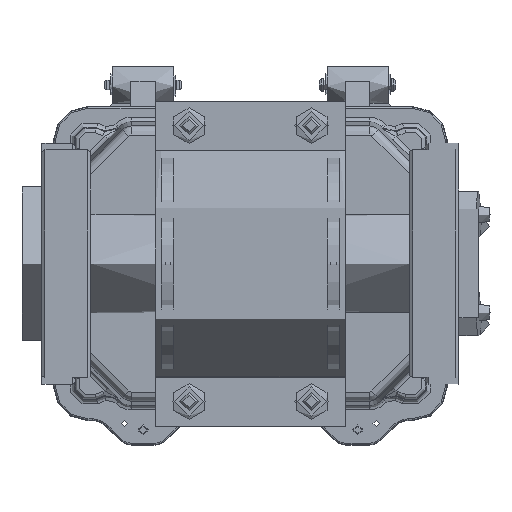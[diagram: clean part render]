
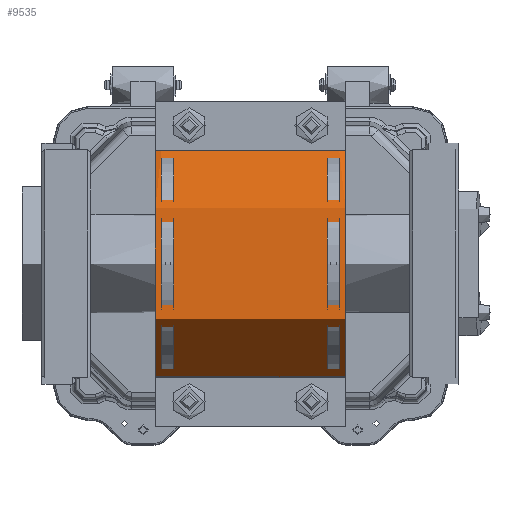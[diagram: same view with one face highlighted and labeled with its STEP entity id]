
A CAD part, front view. The second image highlights one B-rep face of the part: STEP entity #9535.
In plain terms, the highlighted cylindrical face has radius 37 mm (diameter 74 mm), a partial arc.
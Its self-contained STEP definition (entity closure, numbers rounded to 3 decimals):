
#9535=ADVANCED_FACE('',(#25986),#25988,.T.);
#25986=FACE_BOUND('',#25987,.T.);
#25987=EDGE_LOOP('',(#34668,#34669,#34670,#34671,#34672,#34673,#34674,#34675,#34676,
#34677));
#25988=CYLINDRICAL_SURFACE('',#25989,37.);
#25989=AXIS2_PLACEMENT_3D('',#25990,#25991,#25992);
#25990=CARTESIAN_POINT('',(-31.,-9.553,0.));
#25991=DIRECTION('',(1.,0.,0.));
#25992=DIRECTION('',(0.,0.,1.));
#34668=ORIENTED_EDGE('',*,*,#38542,.F.);
#34669=ORIENTED_EDGE('',*,*,#38524,.T.);
#34670=ORIENTED_EDGE('',*,*,#38561,.F.);
#34671=ORIENTED_EDGE('',*,*,#38546,.T.);
#34672=ORIENTED_EDGE('',*,*,#38469,.F.);
#34673=ORIENTED_EDGE('',*,*,#38562,.F.);
#34674=ORIENTED_EDGE('',*,*,#38461,.F.);
#34675=ORIENTED_EDGE('',*,*,#38555,.T.);
#34676=ORIENTED_EDGE('',*,*,#38563,.T.);
#34677=ORIENTED_EDGE('',*,*,#38514,.T.);
#38461=EDGE_CURVE('',#42298,#42300,#42301,.T.);
#38469=EDGE_CURVE('',#42312,#42314,#42315,.F.);
#38514=EDGE_CURVE('',#42387,#42225,#42388,.T.);
#38524=EDGE_CURVE('',#42217,#42401,#42403,.T.);
#38542=EDGE_CURVE('',#42217,#42225,#42431,.F.);
#38546=EDGE_CURVE('',#42437,#42314,#42438,.F.);
#38555=EDGE_CURVE('',#42298,#42447,#42449,.F.);
#38561=EDGE_CURVE('',#42437,#42401,#42459,.T.);
#38562=EDGE_CURVE('',#42300,#42312,#42460,.T.);
#38563=EDGE_CURVE('',#42447,#42387,#42461,.T.);
#42217=VERTEX_POINT('',#54794);
#42225=VERTEX_POINT('',#54812);
#42298=VERTEX_POINT('',#54991);
#42300=VERTEX_POINT('',#54995);
#42301=CIRCLE('',#54996,37.);
#42312=VERTEX_POINT('',#55022);
#42314=VERTEX_POINT('',#55026);
#42315=CIRCLE('',#55027,37.);
#42387=VERTEX_POINT('',#56701);
#42388=LINE('',#56702,#56703);
#42401=VERTEX_POINT('',#56733);
#42403=LINE('',#56737,#56738);
#42431=LINE('',#56881,#56882);
#42437=VERTEX_POINT('',#56897);
#42438=LINE('',#56898,#56899);
#42447=VERTEX_POINT('',#56923);
#42449=LINE('',#56927,#56928);
#42459=CIRCLE('',#56949,37.);
#42460=LINE('',#56953,#56954);
#42461=CIRCLE('',#56956,37.);
#54794=CARTESIAN_POINT('',(29.,-10.553,-36.986));
#54812=CARTESIAN_POINT('',(-29.,-10.553,-36.986));
#54991=CARTESIAN_POINT('',(-29.,-10.553,36.986));
#54995=CARTESIAN_POINT('',(-29.,-11.553,36.946));
#54996=AXIS2_PLACEMENT_3D('',#54997,#54998,#54999);
#54997=CARTESIAN_POINT('',(-29.,-9.553,0.));
#54998=DIRECTION('',(1.,0.,0.));
#54999=DIRECTION('',(0.,-0.027,1.));
#55022=CARTESIAN_POINT('',(29.,-11.553,36.946));
#55026=CARTESIAN_POINT('',(29.,-10.553,36.986));
#55027=AXIS2_PLACEMENT_3D('',#55028,#55029,#55030);
#55028=CARTESIAN_POINT('',(29.,-9.553,0.));
#55029=DIRECTION('',(1.,0.,-0.));
#55030=DIRECTION('',(0.,-0.027,1.));
#56701=CARTESIAN_POINT('',(-31.,-10.553,-36.986));
#56702=CARTESIAN_POINT('',(-31.,-10.553,-36.986));
#56703=VECTOR('',#56704,1.);
#56704=DIRECTION('',(1.,0.,0.));
#56733=CARTESIAN_POINT('',(31.,-10.553,-36.986));
#56737=CARTESIAN_POINT('',(29.,-10.553,-36.986));
#56738=VECTOR('',#56739,1.);
#56739=DIRECTION('',(1.,0.,0.));
#56881=CARTESIAN_POINT('',(-29.,-10.553,-36.986));
#56882=VECTOR('',#56883,1.);
#56883=DIRECTION('',(1.,0.,0.));
#56897=CARTESIAN_POINT('',(31.,-10.553,36.986));
#56898=CARTESIAN_POINT('',(29.,-10.553,36.986));
#56899=VECTOR('',#56900,1.);
#56900=DIRECTION('',(1.,0.,0.));
#56923=CARTESIAN_POINT('',(-31.,-10.553,36.986));
#56927=CARTESIAN_POINT('',(-31.,-10.553,36.986));
#56928=VECTOR('',#56929,1.);
#56929=DIRECTION('',(1.,0.,0.));
#56949=AXIS2_PLACEMENT_3D('',#56950,#56951,#56952);
#56950=CARTESIAN_POINT('',(31.,-9.553,0.));
#56951=DIRECTION('',(1.,0.,0.));
#56952=DIRECTION('',(0.,-0.027,1.));
#56953=CARTESIAN_POINT('',(-29.,-11.553,36.946));
#56954=VECTOR('',#56955,1.);
#56955=DIRECTION('',(1.,0.,0.));
#56956=AXIS2_PLACEMENT_3D('',#56957,#56958,#56959);
#56957=CARTESIAN_POINT('',(-31.,-9.553,0.));
#56958=DIRECTION('',(1.,0.,0.));
#56959=DIRECTION('',(0.,-0.027,1.));
